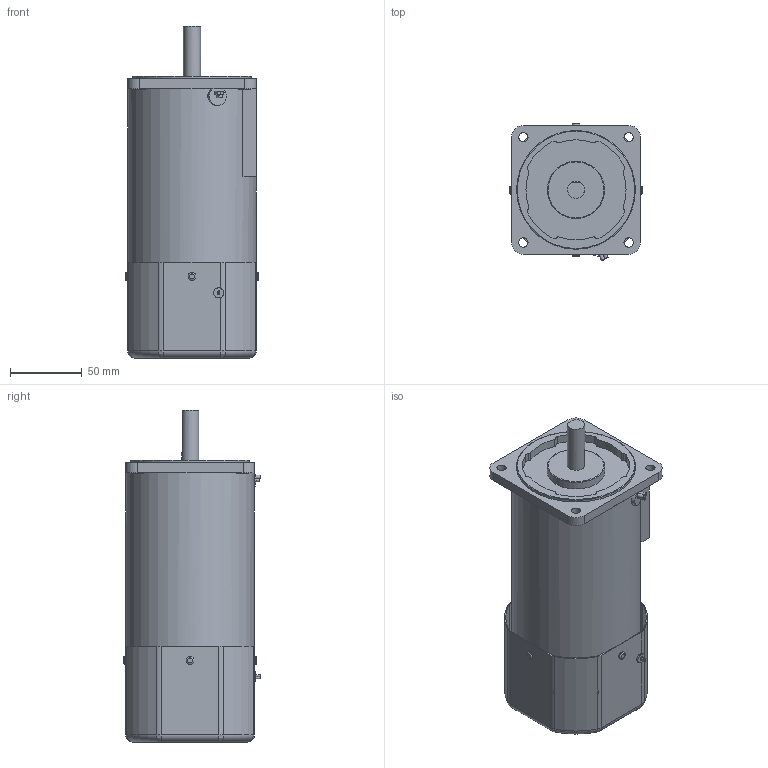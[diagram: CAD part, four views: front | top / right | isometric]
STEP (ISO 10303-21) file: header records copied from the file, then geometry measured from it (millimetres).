
FILE_DESCRIPTION((''),'2;1');
FILE_NAME('E:\2공장-도면\3D\표준형 3D(민규)\step file\SU,SP\K9IS180Fㅁ-Sㅁ.stp','2014-11-14T14:11:33',('AHN'),(''),'Autodesk Inventor 2012','Autodesk Inventor 2012','');
FILE_SCHEMA(('CONFIG_CONTROL_DESIGN'));
Length unit declared in the file: millimetre
Products named in the file (1): K9IS180Fㅁ-Sㅁ
Bounding box: 93 x 95.71 x 232 mm (x, y, z)
Volume: 1177849.3 mm3; surface area: 117385.9 mm2
Topology: 1 solids, 1 shells, 255 faces, 633 edges, 385 vertices
Faces by surface type: cylinder 127, plane 82, torus 38, bspline 8
Full cylindrical faces by diameter (mm): 1.4 x2, 5.5 x4, 6.5 x4, 7 x2, 8 x4, 12 x1, 40 x1, 83 x1, 90 x1
Entity records: 8207 total; most frequent: CARTESIAN_POINT 2131, DIRECTION 1309, ORIENTED_EDGE 1206, EDGE_CURVE 603, AXIS2_PLACEMENT_3D 517, VERTEX_POINT 379, EDGE_LOOP 326, VECTOR 275
